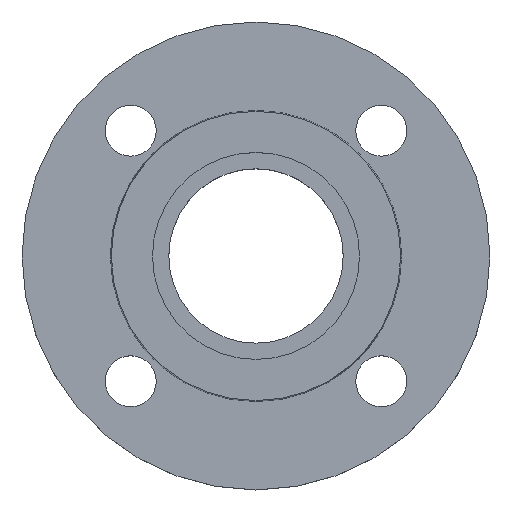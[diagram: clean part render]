
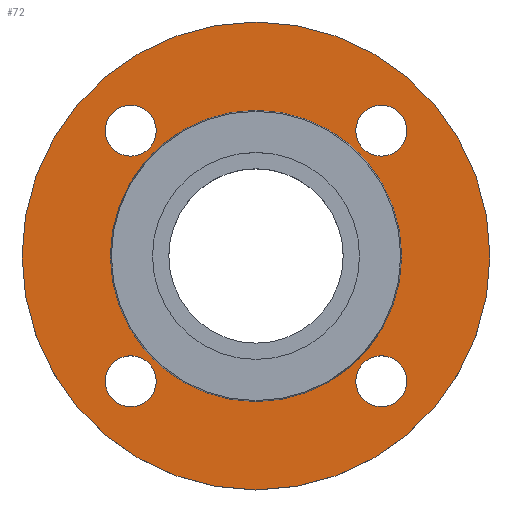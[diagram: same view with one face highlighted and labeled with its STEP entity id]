
A CAD part, top view. The second image highlights one B-rep face of the part: STEP entity #72.
In plain terms, the highlighted planar face has unit normal (0, 0, 1).
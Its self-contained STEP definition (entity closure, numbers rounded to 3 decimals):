
#1 = DIRECTION ( 'NONE',  ( 0., 0., -1. ) ) ;
#2 = CARTESIAN_POINT ( 'NONE',  ( 0., 0., -2. ) ) ;
#17 = EDGE_CURVE ( 'NONE', #536, #653, #570, .T. ) ;
#41 = CARTESIAN_POINT ( 'NONE',  ( -82.5, 0., -2. ) ) ;
#67 = CARTESIAN_POINT ( 'NONE',  ( -35.194, -44.194, -2. ) ) ;
#72 = ADVANCED_FACE ( 'NONE', ( #708, #709, #710, #711, #712, #713 ), #715, .T. ) ;
#91 = CARTESIAN_POINT ( 'NONE',  ( -51.353, 0., -2. ) ) ;
#106 = DIRECTION ( 'NONE',  ( -1., 0., 0. ) ) ;
#108 = CARTESIAN_POINT ( 'NONE',  ( 53.194, -44.194, -2. ) ) ;
#117 = CARTESIAN_POINT ( 'NONE',  ( -53.194, -44.194, -2. ) ) ;
#120 = CARTESIAN_POINT ( 'NONE',  ( 35.194, -44.194, -2. ) ) ;
#140 = CARTESIAN_POINT ( 'NONE',  ( 44.194, 44.194, -2. ) ) ;
#145 = DIRECTION ( 'NONE',  ( 0., 0., -1. ) ) ;
#148 = CARTESIAN_POINT ( 'NONE',  ( 53.194, 44.194, -2. ) ) ;
#149 = DIRECTION ( 'NONE',  ( 1., 0., 0. ) ) ;
#155 = CARTESIAN_POINT ( 'NONE',  ( 51.353, 0., -2. ) ) ;
#173 = CARTESIAN_POINT ( 'NONE',  ( 0., 0., -2. ) ) ;
#179 = DIRECTION ( 'NONE',  ( 0., 0., -1. ) ) ;
#190 = AXIS2_PLACEMENT_3D ( 'NONE', #173, #179, #106 ) ;
#200 = AXIS2_PLACEMENT_3D ( 'NONE', #716, #717, #719 ) ;
#224 = EDGE_CURVE ( 'NONE', #532, #599, #481, .T. ) ;
#226 = AXIS2_PLACEMENT_3D ( 'NONE', #2, #1, #617 ) ;
#232 = CIRCLE ( 'NONE', #451, 9. ) ;
#236 = AXIS2_PLACEMENT_3D ( 'NONE', #689, #690, #691 ) ;
#238 = EDGE_CURVE ( 'NONE', #583, #626, #458, .T. ) ;
#243 = CARTESIAN_POINT ( 'NONE',  ( 44.194, -44.194, -2. ) ) ;
#244 = DIRECTION ( 'NONE',  ( 0., 0., -1. ) ) ;
#245 = DIRECTION ( 'NONE',  ( 1., 0., 0. ) ) ;
#247 = EDGE_CURVE ( 'NONE', #437, #676, #467, .T. ) ;
#256 = CARTESIAN_POINT ( 'NONE',  ( 0., 0., -2. ) ) ;
#257 = DIRECTION ( 'NONE',  ( 0., 0., -1. ) ) ;
#258 = DIRECTION ( 'NONE',  ( -1., 0., 0. ) ) ;
#259 = CARTESIAN_POINT ( 'NONE',  ( 0., 0., -2. ) ) ;
#260 = DIRECTION ( 'NONE',  ( 0., 0., -1. ) ) ;
#261 = DIRECTION ( 'NONE',  ( -1., 0., 0. ) ) ;
#276 = CARTESIAN_POINT ( 'NONE',  ( -44.194, 44.194, -2. ) ) ;
#277 = DIRECTION ( 'NONE',  ( 0., 0., -1. ) ) ;
#278 = DIRECTION ( 'NONE',  ( 1., 0., 0. ) ) ;
#284 = CARTESIAN_POINT ( 'NONE',  ( -44.194, -44.194, -2. ) ) ;
#285 = DIRECTION ( 'NONE',  ( 0., 0., -1. ) ) ;
#287 = DIRECTION ( 'NONE',  ( 1., 0., 0. ) ) ;
#289 = CARTESIAN_POINT ( 'NONE',  ( 44.194, -44.194, -2. ) ) ;
#291 = DIRECTION ( 'NONE',  ( 0., 0., -1. ) ) ;
#293 = DIRECTION ( 'NONE',  ( 1., 0., 0. ) ) ;
#296 = AXIS2_PLACEMENT_3D ( 'NONE', #341, #342, #344 ) ;
#303 = EDGE_CURVE ( 'NONE', #448, #593, #232, .T. ) ;
#314 = AXIS2_PLACEMENT_3D ( 'NONE', #284, #285, #287 ) ;
#319 = CIRCLE ( 'NONE', #325, 9. ) ;
#325 = AXIS2_PLACEMENT_3D ( 'NONE', #289, #291, #293 ) ;
#333 = CARTESIAN_POINT ( 'NONE',  ( 44.194, 44.194, -2. ) ) ;
#334 = DIRECTION ( 'NONE',  ( 0., 0., -1. ) ) ;
#335 = EDGE_CURVE ( 'NONE', #653, #536, #436, .T. ) ;
#337 = DIRECTION ( 'NONE',  ( 1., 0., 0. ) ) ;
#341 = CARTESIAN_POINT ( 'NONE',  ( -44.194, 44.194, -2. ) ) ;
#342 = DIRECTION ( 'NONE',  ( 0., 0., -1. ) ) ;
#344 = DIRECTION ( 'NONE',  ( 1., 0., 0. ) ) ;
#345 = EDGE_CURVE ( 'NONE', #599, #532, #319, .T. ) ;
#354 = CIRCLE ( 'NONE', #499, 9. ) ;
#372 = CARTESIAN_POINT ( 'NONE',  ( 82.5, 0., -2. ) ) ;
#373 = CARTESIAN_POINT ( 'NONE',  ( 35.194, 44.194, -2. ) ) ;
#376 = EDGE_CURVE ( 'NONE', #604, #438, #413, .T. ) ;
#381 = CARTESIAN_POINT ( 'NONE',  ( -53.194, 44.194, -2. ) ) ;
#399 = EDGE_CURVE ( 'NONE', #593, #448, #496, .T. ) ;
#408 = AXIS2_PLACEMENT_3D ( 'NONE', #333, #334, #337 ) ;
#411 = CARTESIAN_POINT ( 'NONE',  ( -35.194, 44.194, -2. ) ) ;
#413 = CIRCLE ( 'NONE', #408, 9. ) ;
#430 = CIRCLE ( 'NONE', #226, 82.5 ) ;
#436 = CIRCLE ( 'NONE', #314, 9. ) ;
#437 = VERTEX_POINT ( 'NONE', #372 ) ;
#438 = VERTEX_POINT ( 'NONE', #373 ) ;
#448 = VERTEX_POINT ( 'NONE', #381 ) ;
#451 = AXIS2_PLACEMENT_3D ( 'NONE', #276, #277, #278 ) ;
#458 = CIRCLE ( 'NONE', #469, 51.353 ) ;
#464 = AXIS2_PLACEMENT_3D ( 'NONE', #259, #260, #261 ) ;
#467 = CIRCLE ( 'NONE', #464, 82.5 ) ;
#469 = AXIS2_PLACEMENT_3D ( 'NONE', #256, #257, #258 ) ;
#475 = CIRCLE ( 'NONE', #190, 51.353 ) ;
#476 = AXIS2_PLACEMENT_3D ( 'NONE', #243, #244, #245 ) ;
#481 = CIRCLE ( 'NONE', #476, 9. ) ;
#496 = CIRCLE ( 'NONE', #296, 9. ) ;
#499 = AXIS2_PLACEMENT_3D ( 'NONE', #140, #145, #149 ) ;
#528 = ORIENTED_EDGE ( 'NONE', *, *, #224, .T. ) ;
#529 = ORIENTED_EDGE ( 'NONE', *, *, #345, .T. ) ;
#530 = ORIENTED_EDGE ( 'NONE', *, *, #335, .T. ) ;
#531 = ORIENTED_EDGE ( 'NONE', *, *, #17, .T. ) ;
#532 = VERTEX_POINT ( 'NONE', #108 ) ;
#533 = ORIENTED_EDGE ( 'NONE', *, *, #399, .T. ) ;
#534 = ORIENTED_EDGE ( 'NONE', *, *, #303, .T. ) ;
#535 = ORIENTED_EDGE ( 'NONE', *, *, #376, .T. ) ;
#536 = VERTEX_POINT ( 'NONE', #117 ) ;
#537 = ORIENTED_EDGE ( 'NONE', *, *, #576, .T. ) ;
#538 = ORIENTED_EDGE ( 'NONE', *, *, #607, .T. ) ;
#539 = ORIENTED_EDGE ( 'NONE', *, *, #238, .T. ) ;
#542 = ORIENTED_EDGE ( 'NONE', *, *, #247, .F. ) ;
#544 = ORIENTED_EDGE ( 'NONE', *, *, #737, .F. ) ;
#570 = CIRCLE ( 'NONE', #236, 9. ) ;
#576 = EDGE_CURVE ( 'NONE', #438, #604, #354, .T. ) ;
#583 = VERTEX_POINT ( 'NONE', #155 ) ;
#593 = VERTEX_POINT ( 'NONE', #411 ) ;
#599 = VERTEX_POINT ( 'NONE', #120 ) ;
#604 = VERTEX_POINT ( 'NONE', #148 ) ;
#607 = EDGE_CURVE ( 'NONE', #626, #583, #475, .T. ) ;
#617 = DIRECTION ( 'NONE',  ( -1., 0., 0. ) ) ;
#626 = VERTEX_POINT ( 'NONE', #91 ) ;
#636 = EDGE_LOOP ( 'NONE', ( #530, #531 ) ) ;
#639 = EDGE_LOOP ( 'NONE', ( #528, #529 ) ) ;
#648 = EDGE_LOOP ( 'NONE', ( #542, #544 ) ) ;
#653 = VERTEX_POINT ( 'NONE', #67 ) ;
#655 = EDGE_LOOP ( 'NONE', ( #538, #539 ) ) ;
#656 = EDGE_LOOP ( 'NONE', ( #535, #537 ) ) ;
#658 = EDGE_LOOP ( 'NONE', ( #533, #534 ) ) ;
#676 = VERTEX_POINT ( 'NONE', #41 ) ;
#689 = CARTESIAN_POINT ( 'NONE',  ( -44.194, -44.194, -2. ) ) ;
#690 = DIRECTION ( 'NONE',  ( 0., 0., -1. ) ) ;
#691 = DIRECTION ( 'NONE',  ( 1., 0., 0. ) ) ;
#708 = FACE_BOUND ( 'NONE', #639, .T. ) ;
#709 = FACE_BOUND ( 'NONE', #636, .T. ) ;
#710 = FACE_BOUND ( 'NONE', #658, .T. ) ;
#711 = FACE_BOUND ( 'NONE', #656, .T. ) ;
#712 = FACE_BOUND ( 'NONE', #655, .T. ) ;
#713 = FACE_OUTER_BOUND ( 'NONE', #648, .T. ) ;
#715 = PLANE ( 'NONE',  #200 ) ;
#716 = CARTESIAN_POINT ( 'NONE',  ( 51.353, 0., -2. ) ) ;
#717 = DIRECTION ( 'NONE',  ( 0., 0., 1. ) ) ;
#719 = DIRECTION ( 'NONE',  ( 1., 0., 0. ) ) ;
#737 = EDGE_CURVE ( 'NONE', #676, #437, #430, .T. ) ;
